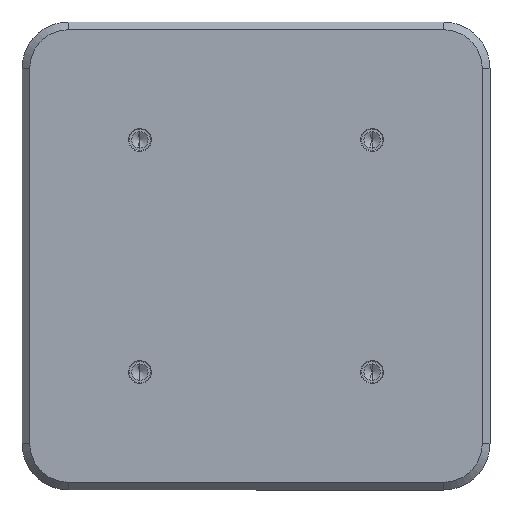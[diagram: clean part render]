
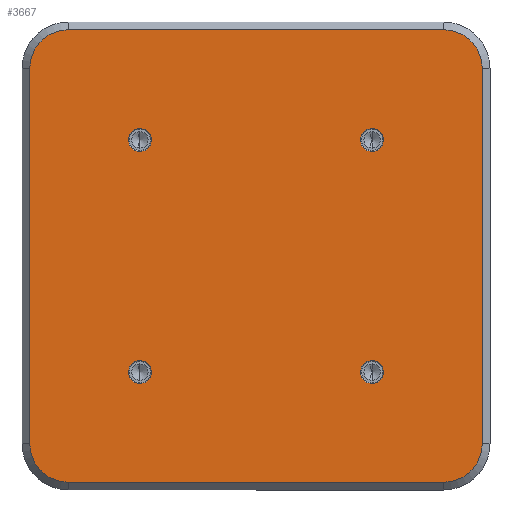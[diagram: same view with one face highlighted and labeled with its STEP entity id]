
A CAD part, front view. The second image highlights one B-rep face of the part: STEP entity #3667.
In plain terms, the highlighted planar face has unit normal (0, -1, 0).
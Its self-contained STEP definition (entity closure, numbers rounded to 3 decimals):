
#141 = DIRECTION ( 'NONE',  ( 0., 1., 0. ) ) ;
#149 = DIRECTION ( 'NONE',  ( 0., 0., 1. ) ) ;
#162 = DIRECTION ( 'NONE',  ( 0., 1., 0. ) ) ;
#186 = CIRCLE ( 'NONE', #907, 10. ) ;
#202 = CARTESIAN_POINT ( 'NONE',  ( -30., 0., -30. ) ) ;
#224 = CIRCLE ( 'NONE', #999, 3. ) ;
#244 = CARTESIAN_POINT ( 'NONE',  ( -58.5, 0., 48.5 ) ) ;
#263 = DIRECTION ( 'NONE',  ( 0., 1., 0. ) ) ;
#309 = DIRECTION ( 'NONE',  ( 0., 0., 1. ) ) ;
#312 = VERTEX_POINT ( 'NONE', #3854 ) ;
#316 = DIRECTION ( 'NONE',  ( 0., 1., 0. ) ) ;
#321 = CIRCLE ( 'NONE', #1089, 3. ) ;
#384 = CARTESIAN_POINT ( 'NONE',  ( -30., 0., -33. ) ) ;
#399 = CIRCLE ( 'NONE', #1153, 3. ) ;
#478 = DIRECTION ( 'NONE',  ( 0., 0., 1. ) ) ;
#512 = CIRCLE ( 'NONE', #1168, 3. ) ;
#537 = DIRECTION ( 'NONE',  ( 1., 0., 0. ) ) ;
#595 = VERTEX_POINT ( 'NONE', #244 ) ;
#619 = ORIENTED_EDGE ( 'NONE', *, *, #3447, .T. ) ;
#627 = CIRCLE ( 'NONE', #1232, 3. ) ;
#639 = AXIS2_PLACEMENT_3D ( 'NONE', #3089, #2886, #2833 ) ;
#641 = AXIS2_PLACEMENT_3D ( 'NONE', #2575, #2621, #3150 ) ;
#706 = AXIS2_PLACEMENT_3D ( 'NONE', #3050, #3159, #1909 ) ;
#812 = CIRCLE ( 'NONE', #1257, 3. ) ;
#907 = AXIS2_PLACEMENT_3D ( 'NONE', #2366, #2341, #2332 ) ;
#921 = VECTOR ( 'NONE', #478, 1000. ) ;
#931 = ORIENTED_EDGE ( 'NONE', *, *, #2385, .T. ) ;
#937 = FACE_BOUND ( 'NONE', #2664, .T. ) ;
#938 = LINE ( 'NONE', #3584, #921 ) ;
#956 = CIRCLE ( 'NONE', #1291, 3. ) ;
#976 = FACE_BOUND ( 'NONE', #3118, .T. ) ;
#985 = VERTEX_POINT ( 'NONE', #1165 ) ;
#999 = AXIS2_PLACEMENT_3D ( 'NONE', #202, #141, #4249 ) ;
#1012 = EDGE_CURVE ( 'NONE', #4121, #3905, #2005, .T. ) ;
#1057 = DIRECTION ( 'NONE',  ( 0., 0., 1. ) ) ;
#1086 = DIRECTION ( 'NONE',  ( 0., -1., 0. ) ) ;
#1089 = AXIS2_PLACEMENT_3D ( 'NONE', #1982, #3369, #3154 ) ;
#1102 = CIRCLE ( 'NONE', #1341, 3. ) ;
#1125 = LINE ( 'NONE', #1344, #1130 ) ;
#1130 = VECTOR ( 'NONE', #1358, 1000. ) ;
#1132 = CARTESIAN_POINT ( 'NONE',  ( -48.5, 0., 48.5 ) ) ;
#1153 = AXIS2_PLACEMENT_3D ( 'NONE', #3074, #263, #3623 ) ;
#1165 = CARTESIAN_POINT ( 'NONE',  ( 30., 0., -33. ) ) ;
#1168 = AXIS2_PLACEMENT_3D ( 'NONE', #1433, #316, #309 ) ;
#1176 = ORIENTED_EDGE ( 'NONE', *, *, #2671, .T. ) ;
#1232 = AXIS2_PLACEMENT_3D ( 'NONE', #1374, #162, #1518 ) ;
#1257 = AXIS2_PLACEMENT_3D ( 'NONE', #3178, #3727, #3724 ) ;
#1291 = AXIS2_PLACEMENT_3D ( 'NONE', #2657, #2777, #3671 ) ;
#1336 = LINE ( 'NONE', #3167, #1354 ) ;
#1341 = AXIS2_PLACEMENT_3D ( 'NONE', #2382, #2357, #149 ) ;
#1344 = CARTESIAN_POINT ( 'NONE',  ( -60.5, 0., 58.5 ) ) ;
#1354 = VECTOR ( 'NONE', #3789, 1000. ) ;
#1358 = DIRECTION ( 'NONE',  ( -1., 0., 0. ) ) ;
#1374 = CARTESIAN_POINT ( 'NONE',  ( 30., 0., 30. ) ) ;
#1433 = CARTESIAN_POINT ( 'NONE',  ( 30., 0., -30. ) ) ;
#1480 = CIRCLE ( 'NONE', #706, 10. ) ;
#1517 = AXIS2_PLACEMENT_3D ( 'NONE', #1132, #1086, #1057 ) ;
#1518 = DIRECTION ( 'NONE',  ( 0., 0., 1. ) ) ;
#1536 = ORIENTED_EDGE ( 'NONE', *, *, #2460, .T. ) ;
#1583 = FACE_OUTER_BOUND ( 'NONE', #3997, .T. ) ;
#1604 = CIRCLE ( 'NONE', #1517, 10. ) ;
#1843 = EDGE_CURVE ( 'NONE', #312, #595, #1604, .T. ) ;
#1909 = DIRECTION ( 'NONE',  ( 0., 0., 1. ) ) ;
#1982 = CARTESIAN_POINT ( 'NONE',  ( -30., 0., -30. ) ) ;
#1986 = EDGE_CURVE ( 'NONE', #595, #3161, #1336, .T. ) ;
#2000 = VECTOR ( 'NONE', #537, 1000. ) ;
#2005 = LINE ( 'NONE', #2291, #2000 ) ;
#2061 = EDGE_CURVE ( 'NONE', #2639, #312, #1125, .T. ) ;
#2071 = EDGE_CURVE ( 'NONE', #3364, #985, #1102, .T. ) ;
#2086 = CARTESIAN_POINT ( 'NONE',  ( -58.5, 0., -48.5 ) ) ;
#2232 = EDGE_CURVE ( 'NONE', #3631, #2719, #956, .T. ) ;
#2243 = EDGE_CURVE ( 'NONE', #3227, #3542, #938, .T. ) ;
#2291 = CARTESIAN_POINT ( 'NONE',  ( -60.5, 0., -58.5 ) ) ;
#2321 = CARTESIAN_POINT ( 'NONE',  ( 58.5, 0., -48.5 ) ) ;
#2332 = DIRECTION ( 'NONE',  ( 0., 0., 1. ) ) ;
#2341 = DIRECTION ( 'NONE',  ( 0., -1., 0. ) ) ;
#2357 = DIRECTION ( 'NONE',  ( 0., 1., 0. ) ) ;
#2366 = CARTESIAN_POINT ( 'NONE',  ( 48.5, 0., 48.5 ) ) ;
#2382 = CARTESIAN_POINT ( 'NONE',  ( 30., 0., -30. ) ) ;
#2385 = EDGE_CURVE ( 'NONE', #3380, #3991, #812, .T. ) ;
#2457 = ORIENTED_EDGE ( 'NONE', *, *, #2518, .T. ) ;
#2460 = EDGE_CURVE ( 'NONE', #3991, #3380, #627, .T. ) ;
#2518 = EDGE_CURVE ( 'NONE', #985, #3364, #512, .T. ) ;
#2547 = ORIENTED_EDGE ( 'NONE', *, *, #2243, .T. ) ;
#2554 = EDGE_CURVE ( 'NONE', #2719, #3631, #399, .T. ) ;
#2572 = ORIENTED_EDGE ( 'NONE', *, *, #2740, .T. ) ;
#2575 = CARTESIAN_POINT ( 'NONE',  ( -48.5, 0., -48.5 ) ) ;
#2604 = EDGE_CURVE ( 'NONE', #4278, #3868, #321, .T. ) ;
#2621 = DIRECTION ( 'NONE',  ( 0., -1., 0. ) ) ;
#2633 = ORIENTED_EDGE ( 'NONE', *, *, #2071, .T. ) ;
#2639 = VERTEX_POINT ( 'NONE', #4120 ) ;
#2643 = ORIENTED_EDGE ( 'NONE', *, *, #2554, .T. ) ;
#2657 = CARTESIAN_POINT ( 'NONE',  ( -30., 0., 30. ) ) ;
#2664 = EDGE_LOOP ( 'NONE', ( #2643, #3492 ) ) ;
#2671 = EDGE_CURVE ( 'NONE', #3868, #4278, #224, .T. ) ;
#2707 = CARTESIAN_POINT ( 'NONE',  ( 30., 0., -27. ) ) ;
#2719 = VERTEX_POINT ( 'NONE', #3029 ) ;
#2735 = CIRCLE ( 'NONE', #641, 10. ) ;
#2740 = EDGE_CURVE ( 'NONE', #3542, #2639, #186, .T. ) ;
#2777 = DIRECTION ( 'NONE',  ( 0., 1., 0. ) ) ;
#2833 = DIRECTION ( 'NONE',  ( 0., 0., 1. ) ) ;
#2839 = ORIENTED_EDGE ( 'NONE', *, *, #1843, .T. ) ;
#2877 = ORIENTED_EDGE ( 'NONE', *, *, #2604, .T. ) ;
#2886 = DIRECTION ( 'NONE',  ( 0., 1., 0. ) ) ;
#2910 = CARTESIAN_POINT ( 'NONE',  ( 30., 0., 33. ) ) ;
#2923 = ORIENTED_EDGE ( 'NONE', *, *, #1986, .T. ) ;
#2946 = PLANE ( 'NONE',  #639 ) ;
#3029 = CARTESIAN_POINT ( 'NONE',  ( -30., 0., 27. ) ) ;
#3050 = CARTESIAN_POINT ( 'NONE',  ( 48.5, 0., -48.5 ) ) ;
#3074 = CARTESIAN_POINT ( 'NONE',  ( -30., 0., 30. ) ) ;
#3089 = CARTESIAN_POINT ( 'NONE',  ( -60.5, 0., -60.5 ) ) ;
#3100 = CARTESIAN_POINT ( 'NONE',  ( -30., 0., 33. ) ) ;
#3118 = EDGE_LOOP ( 'NONE', ( #2877, #1176 ) ) ;
#3150 = DIRECTION ( 'NONE',  ( 0., 0., 1. ) ) ;
#3154 = DIRECTION ( 'NONE',  ( 0., 0., 1. ) ) ;
#3159 = DIRECTION ( 'NONE',  ( 0., -1., 0. ) ) ;
#3161 = VERTEX_POINT ( 'NONE', #2086 ) ;
#3167 = CARTESIAN_POINT ( 'NONE',  ( -58.5, 0., -60.5 ) ) ;
#3178 = CARTESIAN_POINT ( 'NONE',  ( 30., 0., 30. ) ) ;
#3227 = VERTEX_POINT ( 'NONE', #2321 ) ;
#3310 = FACE_BOUND ( 'NONE', #3610, .T. ) ;
#3364 = VERTEX_POINT ( 'NONE', #2707 ) ;
#3369 = DIRECTION ( 'NONE',  ( 0., 1., 0. ) ) ;
#3380 = VERTEX_POINT ( 'NONE', #2910 ) ;
#3447 = EDGE_CURVE ( 'NONE', #3905, #3227, #1480, .T. ) ;
#3492 = ORIENTED_EDGE ( 'NONE', *, *, #2232, .T. ) ;
#3542 = VERTEX_POINT ( 'NONE', #3890 ) ;
#3584 = CARTESIAN_POINT ( 'NONE',  ( 58.5, 0., -60.5 ) ) ;
#3610 = EDGE_LOOP ( 'NONE', ( #2457, #2633 ) ) ;
#3614 = EDGE_LOOP ( 'NONE', ( #1536, #931 ) ) ;
#3623 = DIRECTION ( 'NONE',  ( 0., 0., 1. ) ) ;
#3631 = VERTEX_POINT ( 'NONE', #3100 ) ;
#3667 = ADVANCED_FACE ( 'NONE', ( #1583, #976, #3310, #3807, #937 ), #2946, .F. ) ;
#3671 = DIRECTION ( 'NONE',  ( 0., 0., 1. ) ) ;
#3686 = EDGE_CURVE ( 'NONE', #3161, #4121, #2735, .T. ) ;
#3706 = ORIENTED_EDGE ( 'NONE', *, *, #2061, .T. ) ;
#3724 = DIRECTION ( 'NONE',  ( 0., 0., 1. ) ) ;
#3727 = DIRECTION ( 'NONE',  ( 0., 1., 0. ) ) ;
#3789 = DIRECTION ( 'NONE',  ( 0., 0., -1. ) ) ;
#3807 = FACE_BOUND ( 'NONE', #3614, .T. ) ;
#3809 = CARTESIAN_POINT ( 'NONE',  ( 48.5, 0., -58.5 ) ) ;
#3854 = CARTESIAN_POINT ( 'NONE',  ( -48.5, 0., 58.5 ) ) ;
#3868 = VERTEX_POINT ( 'NONE', #4190 ) ;
#3873 = CARTESIAN_POINT ( 'NONE',  ( 30., 0., 27. ) ) ;
#3890 = CARTESIAN_POINT ( 'NONE',  ( 58.5, 0., 48.5 ) ) ;
#3905 = VERTEX_POINT ( 'NONE', #3809 ) ;
#3991 = VERTEX_POINT ( 'NONE', #3873 ) ;
#3997 = EDGE_LOOP ( 'NONE', ( #4234, #4269, #619, #2547, #2572, #3706, #2839, #2923 ) ) ;
#4102 = CARTESIAN_POINT ( 'NONE',  ( -48.5, 0., -58.5 ) ) ;
#4120 = CARTESIAN_POINT ( 'NONE',  ( 48.5, 0., 58.5 ) ) ;
#4121 = VERTEX_POINT ( 'NONE', #4102 ) ;
#4190 = CARTESIAN_POINT ( 'NONE',  ( -30., 0., -27. ) ) ;
#4234 = ORIENTED_EDGE ( 'NONE', *, *, #3686, .T. ) ;
#4249 = DIRECTION ( 'NONE',  ( 0., 0., 1. ) ) ;
#4269 = ORIENTED_EDGE ( 'NONE', *, *, #1012, .T. ) ;
#4278 = VERTEX_POINT ( 'NONE', #384 ) ;
